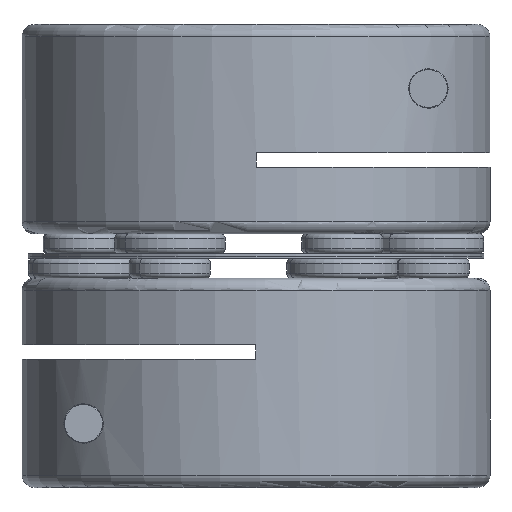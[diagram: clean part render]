
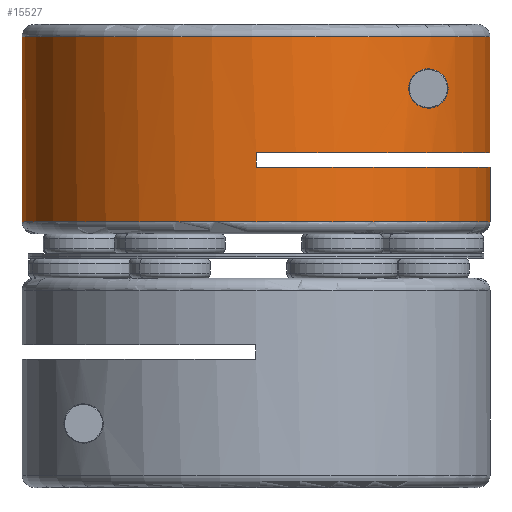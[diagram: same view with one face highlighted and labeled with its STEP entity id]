
A CAD part, front view. The second image highlights one B-rep face of the part: STEP entity #15527.
In plain terms, the highlighted cylindrical face has radius 9.5 mm (diameter 19 mm), a partial arc.
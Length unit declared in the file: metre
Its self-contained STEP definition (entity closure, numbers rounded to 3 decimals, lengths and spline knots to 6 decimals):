
#2 = CARTESIAN_POINT ( 'NONE',  ( 0.007479, -0.005277, 0.007324 ) ) ;
#94 = CARTESIAN_POINT ( 'NONE',  ( 0.009325, 0.00035, 0.00365 ) ) ;
#129 = CARTESIAN_POINT ( 'NONE',  ( 0.007008, -0.005869, 0.007634 ) ) ;
#415 = CIRCLE ( 'NONE', #11520, 0.0095 ) ;
#708 = CARTESIAN_POINT ( 'NONE',  ( 0.006163, -0.006727, 0.006385 ) ) ;
#715 = EDGE_CURVE ( 'NONE', #5241, #8896, #17101, .T. ) ;
#769 = CYLINDRICAL_SURFACE ( 'NONE', #13217, 0.0095 ) ;
#819 = CARTESIAN_POINT ( 'NONE',  ( 0.009319, 0., 0.00425 ) ) ;
#941 = VERTEX_POINT ( 'NONE', #2343 ) ;
#1281 = CARTESIAN_POINT ( 'NONE',  ( 0.007411, -0.005371, 0.007404 ) ) ;
#1747 = CARTESIAN_POINT ( 'NONE',  ( 0.006825, -0.006073, 0.00605 ) ) ;
#1879 = CARTESIAN_POINT ( 'NONE',  ( 0.006653, -0.006256, 0.006063 ) ) ;
#1891 = DIRECTION ( 'NONE',  ( 0., 0., -1. ) ) ;
#2048 = CARTESIAN_POINT ( 'NONE',  ( 0.006057, -0.006821, 0.006597 ) ) ;
#2343 = CARTESIAN_POINT ( 'NONE',  ( 0.006825, -0.006073, 0.00765 ) ) ;
#2575 = VERTEX_POINT ( 'NONE', #94 ) ;
#2703 = CARTESIAN_POINT ( 'NONE',  ( 0.007587, -0.005128, 0.00712 ) ) ;
#2824 = CARTESIAN_POINT ( 'NONE',  ( 0.007587, -0.005128, 0.00658 ) ) ;
#3135 = CARTESIAN_POINT ( 'NONE',  ( -0.000175, -0.00915, 0.00425 ) ) ;
#3287 = CARTESIAN_POINT ( 'NONE',  ( -0.009675, 0.00035, 0.00945 ) ) ;
#3367 = ORIENTED_EDGE ( 'NONE', *, *, #7725, .T. ) ;
#3422 = FACE_BOUND ( 'NONE', #16805, .T. ) ;
#3577 = EDGE_CURVE ( 'NONE', #13322, #2575, #9734, .T. ) ;
#3604 = CARTESIAN_POINT ( 'NONE',  ( 0.006025, -0.006848, 0.006975 ) ) ;
#3727 = CIRCLE ( 'NONE', #9973, 0.0095 ) ;
#3997 = CARTESIAN_POINT ( 'NONE',  ( -0.000175, 0.00035, 0.00425 ) ) ;
#4122 = CARTESIAN_POINT ( 'NONE',  ( -0.000175, -0.00915, 0.00365 ) ) ;
#4800 = DIRECTION ( 'NONE',  ( 0., 0., -1. ) ) ;
#4817 = CARTESIAN_POINT ( 'NONE',  ( 0.006653, -0.00626, 0.00765 ) ) ;
#4880 = CARTESIAN_POINT ( 'NONE',  ( 0.006473, -0.00644, 0.007598 ) ) ;
#4893 = EDGE_CURVE ( 'NONE', #2575, #15875, #9622, .T. ) ;
#5241 = VERTEX_POINT ( 'NONE', #6410 ) ;
#5276 = EDGE_CURVE ( 'NONE', #17591, #11455, #15578, .T. ) ;
#5313 = DIRECTION ( 'NONE',  ( 0., 0., -1. ) ) ;
#5429 = CARTESIAN_POINT ( 'NONE',  ( -0.000175, 0.00035, 0.00145 ) ) ;
#5552 = DIRECTION ( 'NONE',  ( 1., 0., 0. ) ) ;
#5553 = CARTESIAN_POINT ( 'NONE',  ( 0.00718, -0.005665, 0.006127 ) ) ;
#5621 = DIRECTION ( 'NONE',  ( 0., 0., 1. ) ) ;
#5679 = CARTESIAN_POINT ( 'NONE',  ( 0.007008, -0.005869, 0.006066 ) ) ;
#6410 = CARTESIAN_POINT ( 'NONE',  ( -0.009675, 0.00035, 0.00895 ) ) ;
#6436 = CARTESIAN_POINT ( 'NONE',  ( 0.006394, -0.006514, 0.006168 ) ) ;
#6625 = ORIENTED_EDGE ( 'NONE', *, *, #3577, .F. ) ;
#6735 = AXIS2_PLACEMENT_3D ( 'NONE', #7559, #17472, #17415 ) ;
#6748 = DIRECTION ( 'NONE',  ( 1., 0., 0. ) ) ;
#7069 = VERTEX_POINT ( 'NONE', #3135 ) ;
#7080 = CARTESIAN_POINT ( 'NONE',  ( 0.006825, -0.006073, 0.00605 ) ) ;
#7360 = CARTESIAN_POINT ( 'NONE',  ( 0.00648, -0.006431, 0.006122 ) ) ;
#7559 = CARTESIAN_POINT ( 'NONE',  ( -0.000175, 0.00035, 0.00365 ) ) ;
#7725 = EDGE_CURVE ( 'NONE', #9480, #941, #10077, .T. ) ;
#7846 = VECTOR ( 'NONE', #17450, 1. ) ;
#8247 = DIRECTION ( 'NONE',  ( 0., 0., 1. ) ) ;
#8317 = CARTESIAN_POINT ( 'NONE',  ( 0.007179, -0.005666, 0.007573 ) ) ;
#8462 = EDGE_CURVE ( 'NONE', #941, #9480, #13049, .T. ) ;
#8501 = ORIENTED_EDGE ( 'NONE', *, *, #11157, .T. ) ;
#8552 = AXIS2_PLACEMENT_3D ( 'NONE', #5429, #5621, #15477 ) ;
#8557 = CARTESIAN_POINT ( 'NONE',  ( 0.006918, -0.005971, 0.00765 ) ) ;
#8844 = CARTESIAN_POINT ( 'NONE',  ( 0.006739, -0.006166, 0.00605 ) ) ;
#8896 = VERTEX_POINT ( 'NONE', #15860 ) ;
#9140 = EDGE_CURVE ( 'NONE', #13322, #7069, #13785, .T. ) ;
#9180 = VECTOR ( 'NONE', #4800, 1. ) ;
#9329 = CARTESIAN_POINT ( 'NONE',  ( 0.006234, -0.006664, 0.007399 ) ) ;
#9392 = VECTOR ( 'NONE', #8247, 1. ) ;
#9480 = VERTEX_POINT ( 'NONE', #16323 ) ;
#9622 = LINE ( 'NONE', #11819, #16675 ) ;
#9734 = CIRCLE ( 'NONE', #6735, 0.0095 ) ;
#9973 = AXIS2_PLACEMENT_3D ( 'NONE', #12336, #5313, #6748 ) ;
#10077 = B_SPLINE_CURVE_WITH_KNOTS ( 'NONE', 3,
 ( #1747, #8844, #1879, #7360, #6436, #14712, #708, #2048, #10621, #3604, #17642, #11912, #9329, #4880, #4817, #10690 ),
 .UNSPECIFIED., .F., .F.,
 ( 4, 2, 2, 2, 2, 2, 2, 4 ),
 ( 0.003266, 0.003642, 0.004019, 0.004395, 0.004772, 0.005148, 0.005524, 0.006277 ),
 .UNSPECIFIED. ) ;
#10110 = EDGE_CURVE ( 'NONE', #8896, #15875, #13343, .T. ) ;
#10322 = ORIENTED_EDGE ( 'NONE', *, *, #10110, .T. ) ;
#10386 = CARTESIAN_POINT ( 'NONE',  ( -0.000175, 0.00035, 0.00945 ) ) ;
#10606 = ORIENTED_EDGE ( 'NONE', *, *, #9140, .T. ) ;
#10621 = CARTESIAN_POINT ( 'NONE',  ( 0.006025, -0.006848, 0.006722 ) ) ;
#10690 = CARTESIAN_POINT ( 'NONE',  ( 0.006825, -0.006073, 0.00765 ) ) ;
#10910 = FACE_OUTER_BOUND ( 'NONE', #11887, .T. ) ;
#10937 = CARTESIAN_POINT ( 'NONE',  ( 0.009325, 0.00035, 0.00145 ) ) ;
#11157 = EDGE_CURVE ( 'NONE', #17591, #5241, #3727, .T. ) ;
#11212 = ORIENTED_EDGE ( 'NONE', *, *, #14325, .T. ) ;
#11328 = CARTESIAN_POINT ( 'NONE',  ( 0.007261, -0.005563, 0.007528 ) ) ;
#11455 = VERTEX_POINT ( 'NONE', #819 ) ;
#11520 = AXIS2_PLACEMENT_3D ( 'NONE', #3997, #15475, #5552 ) ;
#11819 = CARTESIAN_POINT ( 'NONE',  ( 0.009325, 0.00035, 0.00945 ) ) ;
#11887 = EDGE_LOOP ( 'NONE', ( #17423, #6625, #10606, #11212, #15533, #8501, #17123, #10322 ) ) ;
#11912 = CARTESIAN_POINT ( 'NONE',  ( 0.006162, -0.006728, 0.007313 ) ) ;
#11926 = CARTESIAN_POINT ( 'NONE',  ( -0.000175, -0.00915, 0.00365 ) ) ;
#12336 = CARTESIAN_POINT ( 'NONE',  ( -0.000175, 0.00035, 0.00895 ) ) ;
#12566 = CARTESIAN_POINT ( 'NONE',  ( 0.007411, -0.005371, 0.006296 ) ) ;
#12612 = CARTESIAN_POINT ( 'NONE',  ( 0.009319, 0., 0.00895 ) ) ;
#12691 = CARTESIAN_POINT ( 'NONE',  ( 0.007262, -0.005563, 0.006173 ) ) ;
#13049 = B_SPLINE_CURVE_WITH_KNOTS ( 'NONE', 3,
 ( #15602, #8557, #129, #8317, #11328, #1281, #2, #2703, #14055, #15476, #2824, #14107, #12566, #12691, #5553, #5679, #15535, #7080 ),
 .UNSPECIFIED., .F., .F.,
 ( 4, 2, 2, 2, 2, 2, 2, 2, 4 ),
 ( 0., 0.000408, 0.000816, 0.001225, 0.001633, 0.002041, 0.002449, 0.002858, 0.003266 ),
 .UNSPECIFIED. ) ;
#13065 = DIRECTION ( 'NONE',  ( 0., 0., -1. ) ) ;
#13217 = AXIS2_PLACEMENT_3D ( 'NONE', #10386, #1891, #16010 ) ;
#13322 = VERTEX_POINT ( 'NONE', #11926 ) ;
#13343 = CIRCLE ( 'NONE', #8552, 0.0095 ) ;
#13785 = LINE ( 'NONE', #4122, #9392 ) ;
#14055 = CARTESIAN_POINT ( 'NONE',  ( 0.007625, -0.005073, 0.006989 ) ) ;
#14107 = CARTESIAN_POINT ( 'NONE',  ( 0.007479, -0.005278, 0.006376 ) ) ;
#14325 = EDGE_CURVE ( 'NONE', #7069, #11455, #415, .T. ) ;
#14712 = CARTESIAN_POINT ( 'NONE',  ( 0.006236, -0.006662, 0.006299 ) ) ;
#15234 = ORIENTED_EDGE ( 'NONE', *, *, #8462, .T. ) ;
#15475 = DIRECTION ( 'NONE',  ( 0., 0., 1. ) ) ;
#15476 = CARTESIAN_POINT ( 'NONE',  ( 0.007625, -0.005073, 0.00671 ) ) ;
#15477 = DIRECTION ( 'NONE',  ( 1., 0., 0. ) ) ;
#15527 = ADVANCED_FACE ( 'NONE', ( #10910, #3422 ), #769, .T. ) ;
#15533 = ORIENTED_EDGE ( 'NONE', *, *, #5276, .F. ) ;
#15535 = CARTESIAN_POINT ( 'NONE',  ( 0.006918, -0.005971, 0.00605 ) ) ;
#15578 = LINE ( 'NONE', #17678, #9180 ) ;
#15602 = CARTESIAN_POINT ( 'NONE',  ( 0.006825, -0.006073, 0.00765 ) ) ;
#15860 = CARTESIAN_POINT ( 'NONE',  ( -0.009675, 0.00035, 0.00145 ) ) ;
#15875 = VERTEX_POINT ( 'NONE', #10937 ) ;
#16010 = DIRECTION ( 'NONE',  ( -1., 0., 0. ) ) ;
#16323 = CARTESIAN_POINT ( 'NONE',  ( 0.006825, -0.006073, 0.00605 ) ) ;
#16675 = VECTOR ( 'NONE', #13065, 1. ) ;
#16805 = EDGE_LOOP ( 'NONE', ( #15234, #3367 ) ) ;
#17101 = LINE ( 'NONE', #3287, #7846 ) ;
#17123 = ORIENTED_EDGE ( 'NONE', *, *, #715, .T. ) ;
#17415 = DIRECTION ( 'NONE',  ( 1., 0., 0. ) ) ;
#17423 = ORIENTED_EDGE ( 'NONE', *, *, #4893, .F. ) ;
#17450 = DIRECTION ( 'NONE',  ( 0., 0., -1. ) ) ;
#17472 = DIRECTION ( 'NONE',  ( 0., 0., 1. ) ) ;
#17591 = VERTEX_POINT ( 'NONE', #12612 ) ;
#17642 = CARTESIAN_POINT ( 'NONE',  ( 0.006057, -0.006821, 0.007102 ) ) ;
#17678 = CARTESIAN_POINT ( 'NONE',  ( 0.009319, 0., 0.00945 ) ) ;
